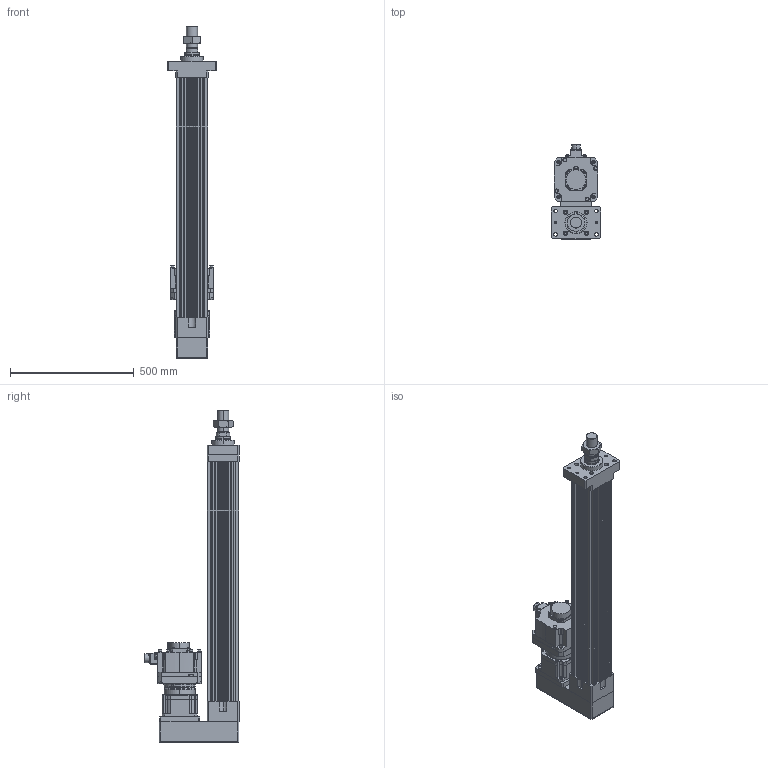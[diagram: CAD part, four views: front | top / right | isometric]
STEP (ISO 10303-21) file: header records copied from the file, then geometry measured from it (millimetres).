
FILE_DESCRIPTION (( 'STEP AP203' ), '1' );
FILE_NAME ('HES130FS(HS)-P750-W020G00-M-FMA.STEP', '2023-01-30T06:49:50', ( 'tms' ), ( '' ), 'SwSTEP 2.0', 'SolidWorks 2013', '' );
FILE_SCHEMA (( 'CONFIG_CONTROL_DESIGN' ));
Length unit declared in the file: millimetre
Products named in the file (9): P1301500001; HG-SR202; AB142-003[HG-SR352]; P0403500801; HES130FS(HS)-P750-W020G00-M-FMA; HES130-P750-G142-FMA; HES130 ROD M ST750; AB1421; M45X1.5P
Assembly tree (8 placements, depth 3):
  HES130FS(HS)-P750-W020G00-M-FMA
    HES130-P750-G142-FMA
    HES130 ROD M ST750
    M45X1.5P
    AB142-003[HG-SR352]
      AB1421
      P1301500001
      P0403500801
    HG-SR202
Bounding box: 200 x 381.85 x 1344 mm (x, y, z)
Volume: 16504443.2 mm3; surface area: 2021641 mm2
Topology: 4 solids, 18 shells, 1401 faces, 3660 edges, 2370 vertices
Faces by surface type: cylinder 643, plane 530, cone 146, bspline 76, torus 6
Entity records: 52014 total; most frequent: CARTESIAN_POINT 16222, DIRECTION 7460, ORIENTED_EDGE 7222, EDGE_CURVE 3633, AXIS2_PLACEMENT_3D 2825, VERTEX_POINT 2370, VECTOR 1810, LINE 1810
